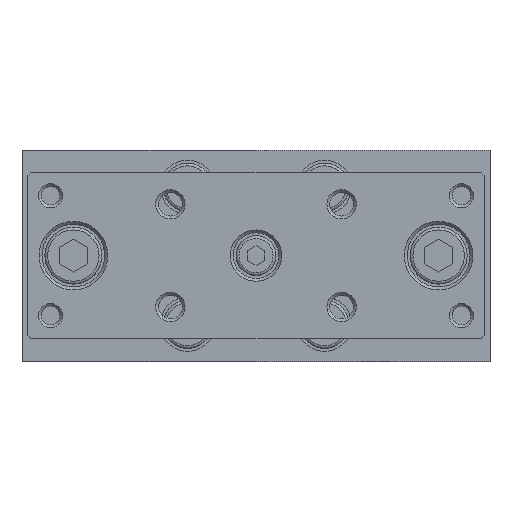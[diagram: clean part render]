
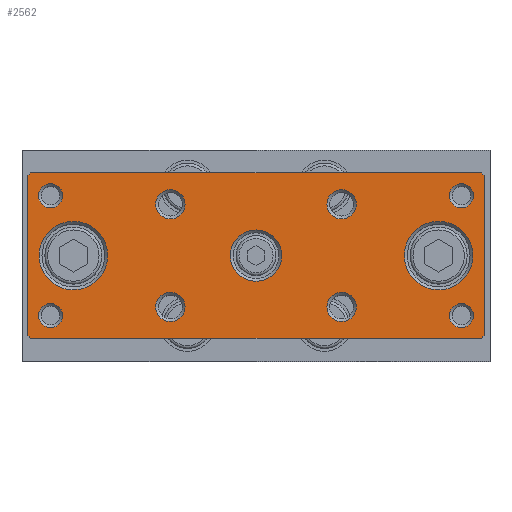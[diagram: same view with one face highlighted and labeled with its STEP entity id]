
A CAD part, top view. The second image highlights one B-rep face of the part: STEP entity #2562.
In plain terms, the highlighted planar face has unit normal (0, 0, 1).
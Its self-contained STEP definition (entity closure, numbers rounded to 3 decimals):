
#2366=CARTESIAN_POINT('',(-12.193,-7.317,139.5));
#2367=VERTEX_POINT('',#2366);
#2368=CARTESIAN_POINT('',(-14.76,-7.317,139.5));
#2369=DIRECTION('',(0.0,0.0,1.0));
#2370=DIRECTION('',(-1.0,0.0,0.0));
#2371=AXIS2_PLACEMENT_3D('',#2368,#2369,#2370);
#2372=CIRCLE('',#2371,2.567);
#2373=EDGE_CURVE('',#2367,#2367,#2372,.T.);
#2378=CARTESIAN_POINT('',(-39.76,1.683,139.5));
#2379=DIRECTION('',(0.0,0.0,1.0));
#2380=DIRECTION('',(1.0,0.0,0.0));
#2381=AXIS2_PLACEMENT_3D('',#2378,#2379,#2380);
#2382=PLANE('',#2381);
#2383=CARTESIAN_POINT('',(-39.76,15.683,139.5));
#2384=VERTEX_POINT('',#2383);
#2385=CARTESIAN_POINT('',(-39.26,16.183,139.5));
#2386=VERTEX_POINT('',#2385);
#2387=CARTESIAN_POINT('',(-39.76,15.683,139.5));
#2388=DIRECTION('',(0.707,0.707,0.0));
#2389=VECTOR('',#2388,0.707);
#2390=LINE('',#2387,#2389);
#2391=EDGE_CURVE('',#2384,#2386,#2390,.T.);
#2392=ORIENTED_EDGE('',*,*,#2391,.F.);
#2393=CARTESIAN_POINT('',(-39.76,-12.317,139.5));
#2394=VERTEX_POINT('',#2393);
#2395=CARTESIAN_POINT('',(-39.76,15.683,139.5));
#2396=DIRECTION('',(0.0,-1.0,0.0));
#2397=VECTOR('',#2396,28.);
#2398=LINE('',#2395,#2397);
#2399=EDGE_CURVE('',#2384,#2394,#2398,.T.);
#2400=ORIENTED_EDGE('',*,*,#2399,.T.);
#2401=CARTESIAN_POINT('',(-39.26,-12.817,139.5));
#2402=VERTEX_POINT('',#2401);
#2403=CARTESIAN_POINT('',(-39.26,-12.817,139.5));
#2404=DIRECTION('',(-0.707,0.707,0.0));
#2405=VECTOR('',#2404,0.707);
#2406=LINE('',#2403,#2405);
#2407=EDGE_CURVE('',#2402,#2394,#2406,.T.);
#2408=ORIENTED_EDGE('',*,*,#2407,.F.);
#2409=CARTESIAN_POINT('',(39.74,-12.817,139.5));
#2410=VERTEX_POINT('',#2409);
#2411=CARTESIAN_POINT('',(-39.26,-12.817,139.5));
#2412=DIRECTION('',(1.0,0.0,0.0));
#2413=VECTOR('',#2412,79.);
#2414=LINE('',#2411,#2413);
#2415=EDGE_CURVE('',#2402,#2410,#2414,.T.);
#2416=ORIENTED_EDGE('',*,*,#2415,.T.);
#2417=CARTESIAN_POINT('',(40.24,-12.317,139.5));
#2418=VERTEX_POINT('',#2417);
#2419=CARTESIAN_POINT('',(40.24,-12.317,139.5));
#2420=DIRECTION('',(-0.707,-0.707,0.0));
#2421=VECTOR('',#2420,0.707);
#2422=LINE('',#2419,#2421);
#2423=EDGE_CURVE('',#2418,#2410,#2422,.T.);
#2424=ORIENTED_EDGE('',*,*,#2423,.F.);
#2425=CARTESIAN_POINT('',(40.24,15.683,139.5));
#2426=VERTEX_POINT('',#2425);
#2427=CARTESIAN_POINT('',(40.24,-12.317,139.5));
#2428=DIRECTION('',(0.0,1.0,0.0));
#2429=VECTOR('',#2428,28.);
#2430=LINE('',#2427,#2429);
#2431=EDGE_CURVE('',#2418,#2426,#2430,.T.);
#2432=ORIENTED_EDGE('',*,*,#2431,.T.);
#2433=CARTESIAN_POINT('',(39.74,16.183,139.5));
#2434=VERTEX_POINT('',#2433);
#2435=CARTESIAN_POINT('',(39.74,16.183,139.5));
#2436=DIRECTION('',(0.707,-0.707,0.0));
#2437=VECTOR('',#2436,0.707);
#2438=LINE('',#2435,#2437);
#2439=EDGE_CURVE('',#2434,#2426,#2438,.T.);
#2440=ORIENTED_EDGE('',*,*,#2439,.F.);
#2441=CARTESIAN_POINT('',(39.74,16.183,139.5));
#2442=DIRECTION('',(-1.0,0.0,0.0));
#2443=VECTOR('',#2442,79.0);
#2444=LINE('',#2441,#2443);
#2445=EDGE_CURVE('',#2434,#2386,#2444,.T.);
#2446=ORIENTED_EDGE('',*,*,#2445,.T.);
#2447=EDGE_LOOP('',(#2392,#2400,#2408,#2416,#2424,#2432,#2440,#2446));
#2448=FACE_OUTER_BOUND('',#2447,.T.);
#2449=CARTESIAN_POINT('',(17.807,10.683,139.5));
#2450=VERTEX_POINT('',#2449);
#2451=CARTESIAN_POINT('',(15.24,10.683,139.5));
#2452=DIRECTION('',(0.0,0.0,1.0));
#2453=DIRECTION('',(-1.0,0.0,0.0));
#2454=AXIS2_PLACEMENT_3D('',#2451,#2452,#2453);
#2455=CIRCLE('',#2454,2.567);
#2456=EDGE_CURVE('',#2450,#2450,#2455,.T.);
#2457=ORIENTED_EDGE('',*,*,#2456,.F.);
#2458=EDGE_LOOP('',(#2457));
#2459=FACE_BOUND('',#2458,.T.);
#2460=CARTESIAN_POINT('',(-12.193,10.683,139.5));
#2461=VERTEX_POINT('',#2460);
#2462=CARTESIAN_POINT('',(-14.76,10.683,139.5));
#2463=DIRECTION('',(0.0,0.0,1.0));
#2464=DIRECTION('',(-1.0,0.0,0.0));
#2465=AXIS2_PLACEMENT_3D('',#2462,#2463,#2464);
#2466=CIRCLE('',#2465,2.567);
#2467=EDGE_CURVE('',#2461,#2461,#2466,.T.);
#2468=ORIENTED_EDGE('',*,*,#2467,.F.);
#2469=EDGE_LOOP('',(#2468));
#2470=FACE_BOUND('',#2469,.T.);
#2471=CARTESIAN_POINT('',(4.74,1.683,139.5));
#2472=VERTEX_POINT('',#2471);
#2473=CARTESIAN_POINT('',(0.24,1.683,139.5));
#2474=DIRECTION('',(0.0,0.0,1.0));
#2475=DIRECTION('',(-1.0,0.0,0.0));
#2476=AXIS2_PLACEMENT_3D('',#2473,#2474,#2475);
#2477=CIRCLE('',#2476,4.5);
#2478=EDGE_CURVE('',#2472,#2472,#2477,.T.);
#2479=ORIENTED_EDGE('',*,*,#2478,.F.);
#2480=EDGE_LOOP('',(#2479));
#2481=FACE_BOUND('',#2480,.T.);
#2482=CARTESIAN_POINT('',(-25.76,1.683,139.5));
#2483=VERTEX_POINT('',#2482);
#2484=CARTESIAN_POINT('',(-31.76,1.683,139.5));
#2485=DIRECTION('',(0.0,0.0,1.0));
#2486=DIRECTION('',(-1.0,0.0,0.0));
#2487=AXIS2_PLACEMENT_3D('',#2484,#2485,#2486);
#2488=CIRCLE('',#2487,6.);
#2489=EDGE_CURVE('',#2483,#2483,#2488,.T.);
#2490=ORIENTED_EDGE('',*,*,#2489,.F.);
#2491=EDGE_LOOP('',(#2490));
#2492=FACE_BOUND('',#2491,.T.);
#2493=CARTESIAN_POINT('',(38.24,1.683,139.5));
#2494=VERTEX_POINT('',#2493);
#2495=CARTESIAN_POINT('',(32.24,1.683,139.5));
#2496=DIRECTION('',(0.0,0.0,1.0));
#2497=DIRECTION('',(-1.0,0.0,0.0));
#2498=AXIS2_PLACEMENT_3D('',#2495,#2496,#2497);
#2499=CIRCLE('',#2498,6.);
#2500=EDGE_CURVE('',#2494,#2494,#2499,.T.);
#2501=ORIENTED_EDGE('',*,*,#2500,.F.);
#2502=EDGE_LOOP('',(#2501));
#2503=FACE_BOUND('',#2502,.T.);
#2504=CARTESIAN_POINT('',(38.361,-8.817,139.5));
#2505=VERTEX_POINT('',#2504);
#2506=CARTESIAN_POINT('',(36.24,-8.817,139.5));
#2507=DIRECTION('',(0.0,0.0,1.0));
#2508=DIRECTION('',(-1.0,0.0,0.0));
#2509=AXIS2_PLACEMENT_3D('',#2506,#2507,#2508);
#2510=CIRCLE('',#2509,2.121);
#2511=EDGE_CURVE('',#2505,#2505,#2510,.T.);
#2512=ORIENTED_EDGE('',*,*,#2511,.F.);
#2513=EDGE_LOOP('',(#2512));
#2514=FACE_BOUND('',#2513,.T.);
#2515=CARTESIAN_POINT('',(38.361,12.183,139.5));
#2516=VERTEX_POINT('',#2515);
#2517=CARTESIAN_POINT('',(36.24,12.183,139.5));
#2518=DIRECTION('',(0.0,0.0,1.0));
#2519=DIRECTION('',(-1.0,0.0,0.0));
#2520=AXIS2_PLACEMENT_3D('',#2517,#2518,#2519);
#2521=CIRCLE('',#2520,2.121);
#2522=EDGE_CURVE('',#2516,#2516,#2521,.T.);
#2523=ORIENTED_EDGE('',*,*,#2522,.F.);
#2524=EDGE_LOOP('',(#2523));
#2525=FACE_BOUND('',#2524,.T.);
#2526=CARTESIAN_POINT('',(-33.639,-8.817,139.5));
#2527=VERTEX_POINT('',#2526);
#2528=CARTESIAN_POINT('',(-35.76,-8.817,139.5));
#2529=DIRECTION('',(0.0,0.0,1.0));
#2530=DIRECTION('',(-1.0,0.0,0.0));
#2531=AXIS2_PLACEMENT_3D('',#2528,#2529,#2530);
#2532=CIRCLE('',#2531,2.121);
#2533=EDGE_CURVE('',#2527,#2527,#2532,.T.);
#2534=ORIENTED_EDGE('',*,*,#2533,.F.);
#2535=EDGE_LOOP('',(#2534));
#2536=FACE_BOUND('',#2535,.T.);
#2537=CARTESIAN_POINT('',(-33.639,12.183,139.5));
#2538=VERTEX_POINT('',#2537);
#2539=CARTESIAN_POINT('',(-35.76,12.183,139.5));
#2540=DIRECTION('',(0.0,0.0,1.0));
#2541=DIRECTION('',(-1.0,0.0,0.0));
#2542=AXIS2_PLACEMENT_3D('',#2539,#2540,#2541);
#2543=CIRCLE('',#2542,2.121);
#2544=EDGE_CURVE('',#2538,#2538,#2543,.T.);
#2545=ORIENTED_EDGE('',*,*,#2544,.F.);
#2546=EDGE_LOOP('',(#2545));
#2547=FACE_BOUND('',#2546,.T.);
#2548=CARTESIAN_POINT('',(17.807,-7.317,139.5));
#2549=VERTEX_POINT('',#2548);
#2550=CARTESIAN_POINT('',(15.24,-7.317,139.5));
#2551=DIRECTION('',(0.0,0.0,1.0));
#2552=DIRECTION('',(-1.0,0.0,0.0));
#2553=AXIS2_PLACEMENT_3D('',#2550,#2551,#2552);
#2554=CIRCLE('',#2553,2.567);
#2555=EDGE_CURVE('',#2549,#2549,#2554,.T.);
#2556=ORIENTED_EDGE('',*,*,#2555,.F.);
#2557=EDGE_LOOP('',(#2556));
#2558=FACE_BOUND('',#2557,.T.);
#2559=ORIENTED_EDGE('',*,*,#2373,.F.);
#2560=EDGE_LOOP('',(#2559));
#2561=FACE_BOUND('',#2560,.T.);
#2562=ADVANCED_FACE('',(#2448,#2459,#2470,#2481,#2492,#2503,#2514,#2525,#2536,#2547,#2558,#2561),#2382,.T.);
